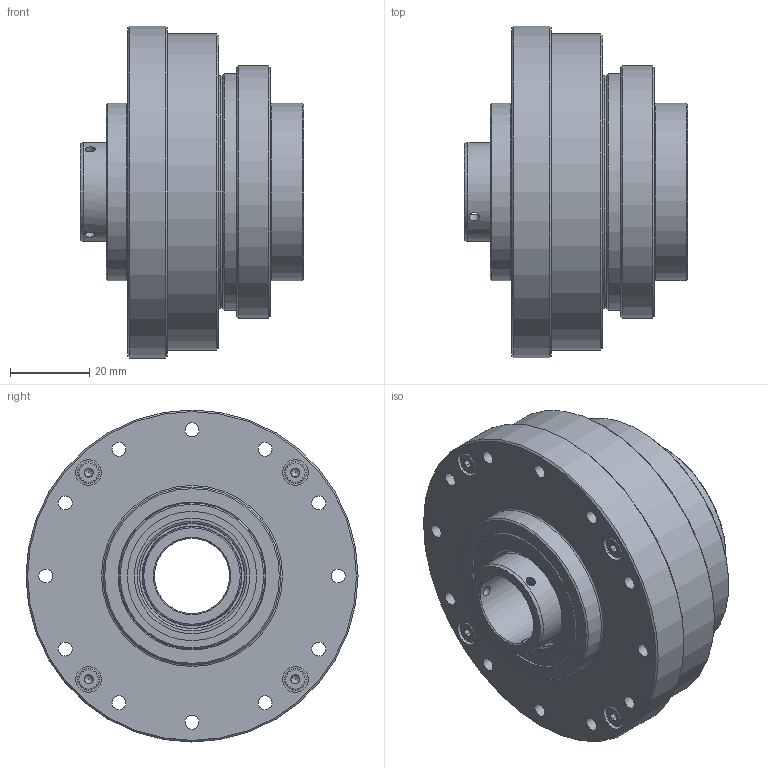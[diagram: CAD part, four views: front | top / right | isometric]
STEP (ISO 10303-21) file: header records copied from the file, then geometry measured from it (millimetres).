
FILE_DESCRIPTION(/* description */ (''),/* implementation_level */ '2;1');
FILE_NAME(/* name */ '40006430oer000_00.stp',/* time_stamp */ '2024-10-02T11:16:34+02:00',/* author */ (''),/* organization */ (''),/* preprocessor_version */ 'ST-DEVELOPER v19.4',/* originating_system */ 'SIEMENS PLM Software NX2212.9120',/* authorisation */ '');
FILE_SCHEMA (('AUTOMOTIVE_DESIGN { 1 0 10303 214 3 1 1 1 }'));
Length unit declared in the file: millimetre
Products named in the file (1): 40006430oer000_00_stp_objects
Bounding box: 56.5 x 84 x 84 mm (x, y, z)
Volume: 131266.6 mm3; surface area: 132037.4 mm2
Topology: 99 solids, 102 shells, 990 faces, 2301 edges, 1477 vertices
Faces by surface type: cylinder 322, plane 312, cone 175, torus 115, sphere 65, extrusion 1
Full cylindrical faces by diameter (mm): 1.25 x1, 1.6 x1, 1.8 x1, 2.5 x31, 3 x9, 3.2 x1, 3.4 x20, 3.5 x64, 5.5 x8, 6.5 x8, 19 x1, 23.71 x2, 23.94 x2, 25 x7, 26.72 x2, 27 x5, 27.01 x2, 27.4 x8, 28 x2, 28.5 x4, 28.8 x1, 29.18 x4, 30 x3, 31.694 x2, 32.694 x1, 32.9 x2, 33.2 x1, 33.3 x4, 33.5 x2, 33.694 x1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
Entity records: 25764 total; most frequent: CARTESIAN_POINT 5755, DIRECTION 4095, ORIENTED_EDGE 2918, AXIS2_PLACEMENT_3D 1934, EDGE_LOOP 1726, FACE_BOUND 1531, EDGE_CURVE 1459, VERTEX_POINT 1276
